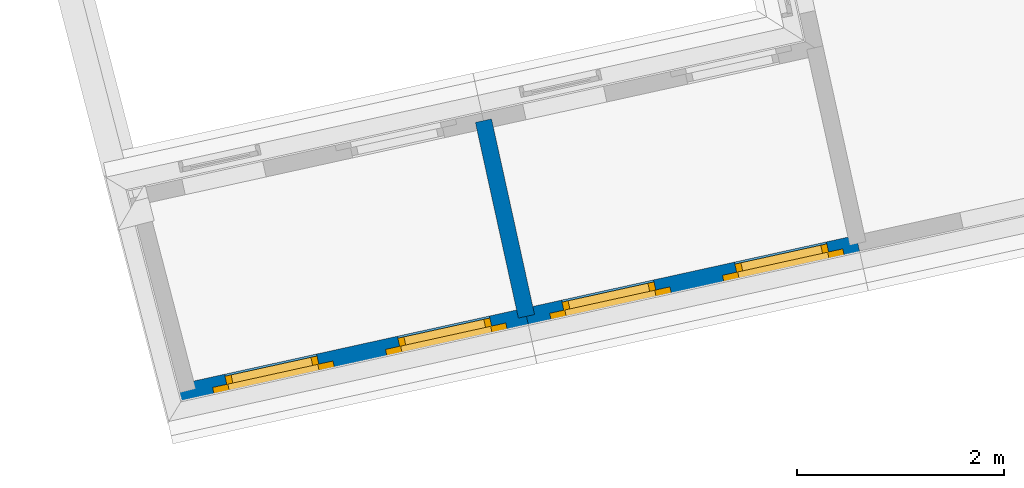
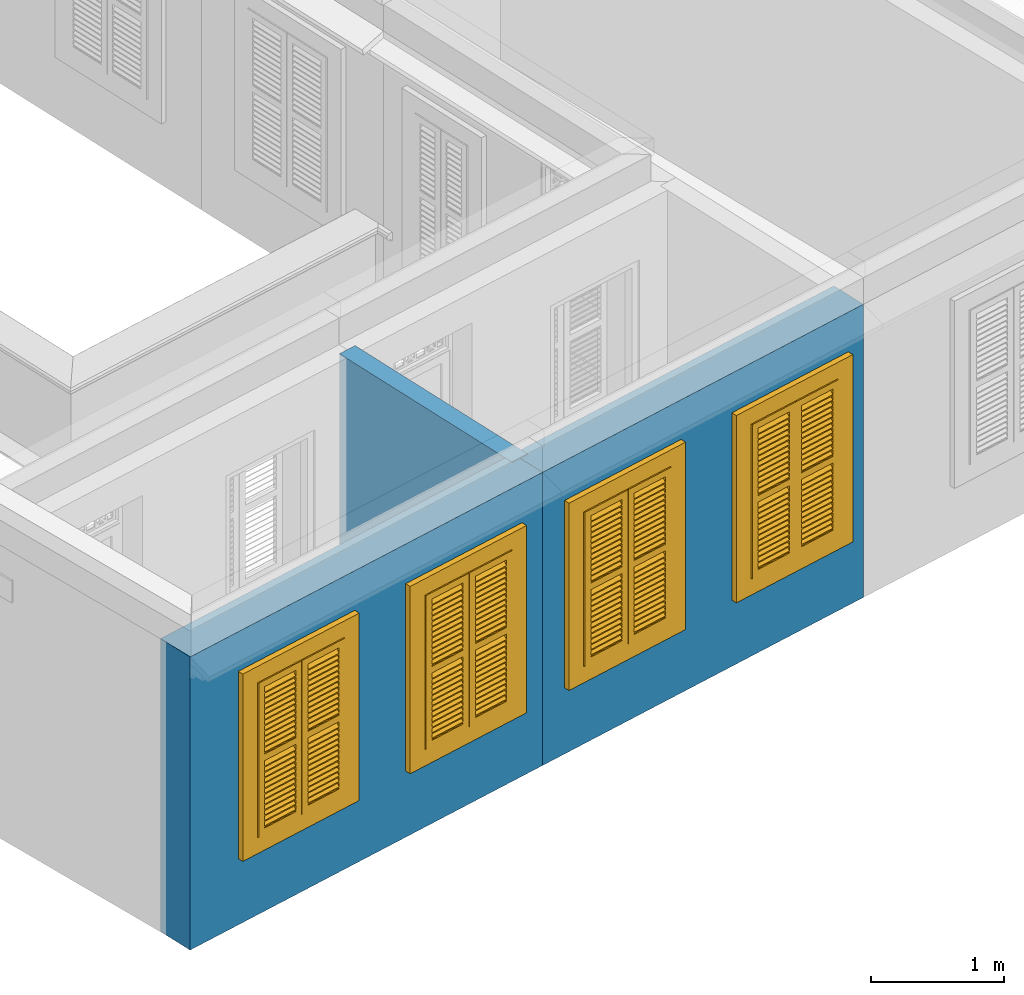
# One storey, part 2 of 17: 4 windows, 3 walls, 4 openings.
"""IFC4 building model written with IfcOpenShell, lengths in metres."""

import ifcopenshell
import ifcopenshell.guid

model = None  # the IFC model being written
_history = None  # IfcOwnerHistory: only IFC2X3 demands one
_inside = {}  # id of a spatial element -> (the spatial element, [elements in it])
_under = {}  # id of a project, library or spatial element -> (it, [spatial elements below it])
_declared = {}  # id of a project -> (the project, [libraries it declares])
_typed = {}  # id of a type object -> (the type object, [elements of that type])
_made_of = {}  # id of a material, layer set ... -> (it, [elements and type objects made of it])


def new_model(schema):
    """Start an empty IFC model of exactly this schema.

    Asked for "IFC4X3", IfcOpenShell would pick the latest addendum, in which some entities
    have other attributes; the version numbers below select the first issue.
    IFC2X3 requires an IfcOwnerHistory on every rooted entity: one is made here for all.
    """
    global model, _history
    if schema == "IFC4X3":
        model = ifcopenshell.file(schema_version=(4, 3, 0, 0))
    else:
        model = ifcopenshell.file(schema=schema)
    _inside.clear()
    _under.clear()
    _declared.clear()
    _typed.clear()
    _made_of.clear()
    _history = None
    if model.schema == "IFC2X3":
        org = make("IfcOrganization", Name="unknown")
        user = make(
            "IfcPersonAndOrganization",
            ThePerson=make("IfcPerson", FamilyName="unknown"),
            TheOrganization=org,
        )
        app = make(
            "IfcApplication",
            ApplicationDeveloper=org,
            Version="unknown",
            ApplicationFullName="unknown",
            ApplicationIdentifier="unknown",
        )
        _history = make(
            "IfcOwnerHistory",
            OwningUser=user,
            OwningApplication=app,
            ChangeAction="ADDED",
            CreationDate=0,
        )
    return model


def make(cls, **values):
    """One entity of the class cls with the attributes given. An attribute that is None is left unset."""
    return model.create_entity(
        cls, **{name: value for name, value in values.items() if value is not None}
    )


def rooted(cls, **values):
    """An entity with a GlobalId (a new one), such as an element, a storey or a relation."""
    return make(cls, GlobalId=ifcopenshell.guid.new(), OwnerHistory=_history, **values)


def si_unit(unit_type, name, prefix=None):
    """IfcSIUnit, for example si_unit("LENGTHUNIT", "METRE", prefix="MILLI")."""
    return make("IfcSIUnit", UnitType=unit_type, Prefix=prefix, Name=name)


def assignment(units):
    """IfcUnitAssignment: the units of a project."""
    return None if units is None else make("IfcUnitAssignment", Units=units)


def point(xyz):
    """IfcCartesianPoint."""
    return None if xyz is None else make("IfcCartesianPoint", Coordinates=xyz)


def direction(xyz):
    """IfcDirection."""
    return None if xyz is None else make("IfcDirection", DirectionRatios=xyz)


def frame(location, z_axis=None, x_axis=None):
    """IfcAxis2Placement3D, a coordinate frame: its origin and axes. An axis left out is left unset."""
    return make(
        "IfcAxis2Placement3D",
        Location=point(location),
        Axis=direction(z_axis),
        RefDirection=direction(x_axis),
    )


def origin():
    """The frame at (0, 0, 0) with its axes left unset."""
    return frame((0.0, 0.0, 0.0))


def origin_with_axes():
    """The frame at (0, 0, 0) with the z axis (0, 0, 1) and the x axis (1, 0, 0) written out."""
    return frame((0.0, 0.0, 0.0), z_axis=(0.0, 0.0, 1.0), x_axis=(1.0, 0.0, 0.0))


def place(relative_to, where):
    """IfcLocalPlacement: puts the frame where relative to a parent placement (None: the world)."""
    return make(
        "IfcLocalPlacement", PlacementRelTo=relative_to, RelativePlacement=where
    )


def context(
    kind, dimensions, precision=None, world=None, true_north=None, identifier=None
):
    """IfcGeometricRepresentationContext, for example the 3D "Model" context."""
    return make(
        "IfcGeometricRepresentationContext",
        ContextIdentifier=identifier,
        ContextType=kind,
        CoordinateSpaceDimension=dimensions,
        Precision=precision,
        WorldCoordinateSystem=world,
        TrueNorth=true_north,
    )


def subcontext(parent, identifier, kind, view, scale=None):
    """IfcGeometricRepresentationSubContext, for example "Body" below "Model"."""
    return make(
        "IfcGeometricRepresentationSubContext",
        ContextIdentifier=identifier,
        ContextType=kind,
        ParentContext=parent,
        TargetScale=scale,
        TargetView=view,
    )


def project(units=None, contexts=None):
    """IfcProject with its units and contexts."""
    return rooted(
        "IfcProject",
        Name="project",
        RepresentationContexts=contexts,
        UnitsInContext=assignment(units),
    )


def spatial(cls, under=None, at=None, **own):
    """A site, building, storey or space (cls), placed at a placement, below another one or the project."""
    s = rooted(cls, ObjectPlacement=at, **own)
    if under is not None:
        _under.setdefault(under.id(), (under, []))[1].append(s)
    return s


def polyline(points):
    """IfcPolyline through the points."""
    return make("IfcPolyline", Points=[point(p) for p in points])


def outline(outer, holes=None, kind="AREA"):
    """IfcArbitraryClosedProfileDef: a profile drawn as a closed curve; with holes, ...WithVoids."""
    if holes is None:
        return make("IfcArbitraryClosedProfileDef", ProfileType=kind, OuterCurve=outer)
    return make(
        "IfcArbitraryProfileDefWithVoids",
        ProfileType=kind,
        OuterCurve=outer,
        InnerCurves=holes,
    )


def extrude(swept, where, along, depth):
    """IfcExtrudedAreaSolid: the profile swept, set in the frame where, extruded along a direction by depth."""
    return make(
        "IfcExtrudedAreaSolid",
        SweptArea=swept,
        Position=where,
        ExtrudedDirection=direction(along),
        Depth=depth,
    )


def faces_of(points, faces, orient=None, outer=None):
    """IfcFace entities. A face is a list of loops; a loop is a list of indices into points, from 0.

    orient and outer hold one flag for each loop. By default every Orientation is true, the
    first loop of a face is its IfcFaceOuterBound and the others are IfcFaceBound.
    """
    made = []
    for i, loops in enumerate(faces):
        bounds = []
        for j, loop in enumerate(loops):
            is_outer = j == 0 if outer is None else outer[i][j]
            bounds.append(
                make(
                    "IfcFaceOuterBound" if is_outer else "IfcFaceBound",
                    Bound=make("IfcPolyLoop", Polygon=[points[k] for k in loop]),
                    Orientation=True if orient is None else orient[i][j],
                )
            )
        made.append(make("IfcFace", Bounds=bounds))
    return made


def faceted_brep(points, faces, orient=None, outer=None, voids=None):
    """IfcFacetedBrep: a solid bounded by flat faces; with voids (closed shells), ...WithVoids."""
    shared = [point(p) for p in points]
    hull = make("IfcClosedShell", CfsFaces=faces_of(shared, faces, orient, outer))
    if voids is None:
        return make("IfcFacetedBrep", Outer=hull)
    return make(
        "IfcFacetedBrepWithVoids",
        Outer=hull,
        Voids=[
            make(cls, CfsFaces=faces_of(shared, fs, o, b)) for cls, fs, o, b in voids
        ],
    )


def shape(context_of_items, identifier, shape_type, items):
    """IfcShapeRepresentation: the items that make up one representation, for example the "Body"."""
    return make(
        "IfcShapeRepresentation",
        ContextOfItems=context_of_items,
        RepresentationIdentifier=identifier,
        RepresentationType=shape_type,
        Items=items,
    )


def source(mapping_origin, context_of_items, identifier, shape_type, items):
    """IfcRepresentationMap: a shape defined once, which mapped items show again and again."""
    return make(
        "IfcRepresentationMap",
        MappingOrigin=mapping_origin,
        MappedRepresentation=shape(context_of_items, identifier, shape_type, items),
    )


def transform(
    local_origin,
    x_axis=None,
    y_axis=None,
    z_axis=None,
    scale=None,
    scale2=None,
    scale3=None,
    uniform=True,
):
    """IfcCartesianTransformationOperator3D, or its non-uniform kind. x_axis, y_axis, z_axis: its Axis1, 2, 3."""
    if uniform:
        return make(
            "IfcCartesianTransformationOperator3D",
            Axis1=direction(x_axis),
            Axis2=direction(y_axis),
            LocalOrigin=point(local_origin),
            Scale=scale,
            Axis3=direction(z_axis),
        )
    return make(
        "IfcCartesianTransformationOperator3DnonUniform",
        Axis1=direction(x_axis),
        Axis2=direction(y_axis),
        LocalOrigin=point(local_origin),
        Scale=scale,
        Axis3=direction(z_axis),
        Scale2=scale2,
        Scale3=scale3,
    )


def mapped(mapping_source, mapping_target):
    """IfcMappedItem: shows the shape of a source again, moved by a transform."""
    return make(
        "IfcMappedItem", MappingSource=mapping_source, MappingTarget=mapping_target
    )


def material(Name=None, Category=None):
    """IfcMaterial."""
    return make("IfcMaterial", Name=Name, Category=Category)


def layer(
    of_material, thickness, ventilated=None, Name=None, Category=None, Priority=None
):
    """IfcMaterialLayer: one layer of a wall or slab, of a material (None: an air gap)."""
    return make(
        "IfcMaterialLayer",
        Material=of_material,
        LayerThickness=thickness,
        IsVentilated=ventilated,
        Name=Name,
        Category=Category,
        Priority=Priority,
    )


def layer_set(layers, Name=None):
    """IfcMaterialLayerSet."""
    return make("IfcMaterialLayerSet", MaterialLayers=layers, LayerSetName=Name)


def layer_usage(for_layer_set, set_direction, sense, offset, extent=None):
    """IfcMaterialLayerSetUsage: how a layer set lies in its element."""
    return make(
        "IfcMaterialLayerSetUsage",
        ForLayerSet=for_layer_set,
        LayerSetDirection=set_direction,
        DirectionSense=sense,
        OffsetFromReferenceLine=offset,
        ReferenceExtent=extent,
    )


def made_of(thing, what):
    """Note that an element or type object is made of a material, layer set ...; save() writes the relation."""
    if what is not None:
        _made_of.setdefault(what.id(), (what, []))[1].append(thing)
    return thing


def type_object(cls, material=None, **own):
    """A type object (cls), such as IfcWallType, which elements share."""
    return made_of(rooted(cls, **own), material)


def type_shapes(of_type, sources):
    """Give a type object the sources (RepresentationMaps) that its elements show as mapped items."""
    of_type.RepresentationMaps = sources


def element(
    cls,
    number,
    at=None,
    inside=None,
    cuts=None,
    type_object=None,
    material=None,
    context=None,
    identifier="Body",
    shape_type=None,
    held_by="IfcProductDefinitionShape",
    body=None,
    shapes=None,
    **own,
):
    """One element of the class cls, such as IfcWall. Its Tag is "e" and its number.

    at: its placement. inside: the storey or other place that contains it. cuts: it is an
    opening in that element (IfcRelVoidsElement). A single representation is given by context,
    identifier, shape_type and body (its items); several are given by shapes. held_by: the class
    of the entity that holds the representations. save() writes the other relations.
    """
    e = rooted(cls, Tag="e%d" % number, ObjectPlacement=at, **own)
    if body is not None:
        shapes = [shape(context, identifier, shape_type, body)]
    if shapes is not None:
        e.Representation = make(held_by, Representations=shapes)
    if inside is not None:
        _inside.setdefault(inside.id(), (inside, []))[1].append(e)
    if cuts is not None:
        rooted(
            "IfcRelVoidsElement", RelatingBuildingElement=cuts, RelatedOpeningElement=e
        )
    if type_object is not None:
        _typed.setdefault(type_object.id(), (type_object, []))[1].append(e)
    return made_of(e, material)


def fill(opening, filler):
    """IfcRelFillsElement: the door or window that sits in an opening."""
    return rooted(
        "IfcRelFillsElement",
        RelatingOpeningElement=opening,
        RelatedBuildingElement=filler,
    )


def aggregate(whole, parts):
    """IfcRelAggregates: a whole, such as a stair, and the parts it consists of."""
    return rooted("IfcRelAggregates", RelatingObject=whole, RelatedObjects=parts)


def save(model, path):
    """Write the relations noted so far, then the file.

    IfcRelAggregates (storeys below a building ...), IfcRelContainedInSpatialStructure (elements
    in a storey), IfcRelDefinesByType, IfcRelAssociatesMaterial and IfcRelDeclares: one each for
    every whole, place, type object, material and project.
    """
    for whole, parts in _under.values():
        aggregate(whole, parts)
    for where, things in _inside.values():
        rooted(
            "IfcRelContainedInSpatialStructure",
            RelatedElements=things,
            RelatingStructure=where,
        )
    for kind, things in _typed.values():
        rooted("IfcRelDefinesByType", RelatedObjects=things, RelatingType=kind)
    for what, things in _made_of.values():
        rooted("IfcRelAssociatesMaterial", RelatedObjects=things, RelatingMaterial=what)
    for by, libraries in _declared.values():
        rooted("IfcRelDeclares", RelatingContext=by, RelatedDefinitions=libraries)
    model.write(path)


model = new_model("IFC4")

# Units and contexts
model_context = context("Model", 3, world=origin_with_axes())
body_context = subcontext(model_context, "Body", "Model", "MODEL_VIEW")
ifc_project = project(units=[si_unit("PLANEANGLEUNIT", "RADIAN"), si_unit("MASSUNIT", "GRAM", prefix="KILO"), si_unit("FORCEUNIT", "NEWTON", prefix="KILO"), si_unit("LENGTHUNIT", "METRE"), si_unit("AREAUNIT", "SQUARE_METRE"), si_unit("VOLUMEUNIT", "CUBIC_METRE")], contexts=[model_context, model_context])

# Site, building, storey
site_placement = place(None, origin_with_axes())
site = spatial("IfcSite", under=ifc_project, at=site_placement, Name="Site plot-2", CompositionType="ELEMENT")
building_placement = place(None, origin_with_axes())
building = spatial("IfcBuilding", under=site, at=building_placement, Name="Building plot-2", CompositionType="ELEMENT")
storey_placement = place(None, frame((0.0, 0.0, 2.85), z_axis=(0.0, 0.0, 1.0), x_axis=(1.0, 0.0, 0.0)))
storey = spatial("IfcBuildingStorey", under=building, at=storey_placement, Name="plot-2 1", CompositionType="ELEMENT", Elevation=2.85)

# Wall, openings, windows
ifc_material_1 = material(Name="Masonry")
ifc_layer_1 = layer(ifc_material_1, 0.33, ventilated=False)
ifc_layer_set_1 = layer_set([ifc_layer_1], Name="exterior_0.08_0.25")
ifc_layer_usage_1 = layer_usage(ifc_layer_set_1, "AXIS2", "POSITIVE", -0.25)
wall_type_1 = type_object("IfcWallType", Name="exterior_0.08_0.25", PredefinedType="SOLIDWALL", material=ifc_layer_set_1)
wall_1_placement = place(storey_placement, frame((11.33951719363, 1.30021004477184, 0.0), z_axis=(0.0, 0.0, 1.0), x_axis=(0.976656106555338, 0.214808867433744, 0.0)))
wall_1 = element("IfcWall", 1, at=wall_1_placement, inside=storey, type_object=wall_type_1, material=ifc_layer_usage_1, Name="exterior", context=body_context, shape_type="SweptSolid", body=[
    extrude(outline(polyline([(-0.25, 0.08), (-0.25, -0.25), (3.35202978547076, -0.25), (3.35202978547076, 0.0800000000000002), (-0.25, 0.08)])), origin_with_axes(), (0.0, 0.0, 1.0), 2.7),
])
opening_1_placement = place(wall_1_placement, frame((0.38300744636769, 0.0, 0.75)))
opening_1 = element("IfcOpeningElement", 2, at=opening_1_placement, cuts=wall_1, Name="My Opening", ObjectType="Opening", context=body_context, shape_type="SweptSolid", body=[
    extrude(outline(polyline([(0.0, -0.27), (0.910000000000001, -0.27), (0.910000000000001, 1.1), (-1.66533453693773e-16, 1.1), (0.0, -0.27)])), origin_with_axes(), (0.0, 0.0, 1.0), 1.445),
])
opening_2_placement = place(wall_1_placement, frame((2.09300744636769, 0.0, 0.75)))
opening_2 = element("IfcOpeningElement", 3, at=opening_2_placement, cuts=wall_1, Name="My Opening", ObjectType="Opening", context=body_context, shape_type="SweptSolid", body=[
    extrude(outline(polyline([(0.0, -0.27), (0.909999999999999, -0.27), (0.909999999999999, 1.1), (0.0, 1.1), (0.0, -0.27)])), origin_with_axes(), (0.0, 0.0, 1.0), 1.445),
])
window_type = type_object("IfcWindowType", Name="shuttered_shorter", PartitioningType="DOUBLE_PANEL_HORIZONTAL", PredefinedType="NOTDEFINED")
shared_shape = source(origin(), body_context, "Body", "Brep", [
    faceted_brep([(0.393, 0.0, 0.622), (0.074, 0.0, 0.622), (0.074, 0.0, 0.632), (0.393, 0.0, 0.632), (0.074, -0.04, 0.592), (0.393, -0.04, 0.592), (0.393, -0.04, 0.582), (0.074, -0.04, 0.582), (0.517, 0.0, 0.682), (0.836, 0.0, 0.682), (0.836, 0.0, 0.672), (0.517, 0.0, 0.672), (0.517, -0.04, 0.642), (0.836, -0.04, 0.642), (0.836, -0.04, 0.632), (0.517, -0.04, 0.632), (0.517, 0.0, 0.632), (0.836, 0.0, 0.632), (0.836, 0.0, 0.622), (0.517, 0.0, 0.622), (0.517, -0.04, 0.592), (0.836, -0.04, 0.592), (0.836, -0.04, 0.582), (0.517, -0.04, 0.582), (0.517, 0.0, 0.232), (0.836, 0.0, 0.232), (0.836, 0.0, 0.222), (0.517, 0.0, 0.222), (0.517, -0.04, 0.192), (0.836, -0.04, 0.192), (0.836, -0.04, 0.182), (0.517, -0.04, 0.182), (0.517, 0.0, 0.532), (0.836, 0.0, 0.532), (0.836, 0.0, 0.522), (0.517, 0.0, 0.522), (0.517, -0.04, 0.492), (0.836, -0.04, 0.492), (0.836, -0.04, 0.482), (0.517, -0.04, 0.482), (0.517, 0.0, 0.482), (0.836, 0.0, 0.482), (0.836, 0.0, 0.472), (0.517, 0.0, 0.472), (0.517, -0.04, 0.442), (0.836, -0.04, 0.442), (0.836, -0.04, 0.432), (0.517, -0.04, 0.432), (0.517, 0.0, 0.582), (0.836, 0.0, 0.582), (0.836, 0.0, 0.572), (0.517, 0.0, 0.572), (0.517, -0.04, 0.542), (0.836, -0.04, 0.542), (0.836, -0.04, 0.532), (0.517, -0.04, 0.532), (0.517, 0.0, 0.182), (0.836, 0.0, 0.182), (0.836, 0.0, 0.172), (0.517, 0.0, 0.172), (0.517, -0.04, 0.142), (0.836, -0.04, 0.142), (0.836, -0.04, 0.132), (0.517, -0.04, 0.132), (0.517, 0.0, 0.382), (0.836, 0.0, 0.382), (0.836, 0.0, 0.372), (0.517, 0.0, 0.372), (0.517, -0.04, 0.342), (0.836, -0.04, 0.342), (0.836, -0.04, 0.332), (0.517, -0.04, 0.332), (0.517, 0.0, 0.432), (0.836, 0.0, 0.432), (0.836, 0.0, 0.422), (0.517, 0.0, 0.422), (0.517, -0.04, 0.392), (0.836, -0.04, 0.392), (0.836, -0.04, 0.382), (0.517, -0.04, 0.382), (0.517, 0.0, 0.132), (0.836, 0.0, 0.132), (0.836, 0.0, 0.122), (0.517, 0.0, 0.122), (0.517, -0.04, 0.092), (0.836, -0.04, 0.092), (0.836, -0.04, 0.082), (0.517, -0.04, 0.082), (0.517, 0.0, 0.282), (0.836, 0.0, 0.282), (0.836, 0.0, 0.272), (0.517, 0.0, 0.272), (0.517, -0.04, 0.242), (0.836, -0.04, 0.242), (0.836, -0.04, 0.232), (0.517, -0.04, 0.232), (0.517, 0.0, 0.332), (0.836, 0.0, 0.332), (0.836, 0.0, 0.322), (0.517, 0.0, 0.322), (0.517, -0.04, 0.292), (0.836, -0.04, 0.292), (0.836, -0.04, 0.282), (0.517, -0.04, 0.282), (0.517, 0.0, 1.362667), (0.836, 0.0, 1.362667), (0.836, 0.0, 1.352667), (0.517, 0.0, 1.352667), (0.517, -0.04, 1.322667), (0.836, -0.04, 1.322667), (0.836, -0.04, 1.312667), (0.517, -0.04, 1.312667), (0.517, 0.0, 1.312667), (0.836, 0.0, 1.312667), (0.836, 0.0, 1.302667), (0.517, 0.0, 1.302667), (0.517, -0.04, 1.272667), (0.836, -0.04, 1.272667), (0.836, -0.04, 1.262667), (0.517, -0.04, 1.262667), (0.517, 0.0, 0.912667), (0.836, 0.0, 0.912667), (0.836, 0.0, 0.902667), (0.517, 0.0, 0.902667), (0.517, -0.04, 0.872667), (0.836, -0.04, 0.872667), (0.836, -0.04, 0.862667), (0.517, -0.04, 0.862667), (0.517, 0.0, 1.212667), (0.836, 0.0, 1.212667), (0.836, 0.0, 1.202667), (0.517, 0.0, 1.202667), (0.517, -0.04, 1.172667), (0.836, -0.04, 1.172667), (0.836, -0.04, 1.162667), (0.517, -0.04, 1.162667), (0.517, 0.0, 1.162667), (0.836, 0.0, 1.162667), (0.836, 0.0, 1.152667), (0.517, 0.0, 1.152667), (0.517, -0.04, 1.122667), (0.836, -0.04, 1.122667), (0.836, -0.04, 1.112667), (0.517, -0.04, 1.112667), (0.517, 0.0, 1.262667), (0.836, 0.0, 1.262667), (0.836, 0.0, 1.252667), (0.517, 0.0, 1.252667), (0.517, -0.04, 1.222667), (0.836, -0.04, 1.222667), (0.836, -0.04, 1.212667), (0.517, -0.04, 1.212667), (0.517, 0.0, 0.862667), (0.836, 0.0, 0.862667), (0.836, 0.0, 0.852667), (0.517, 0.0, 0.852667), (0.517, -0.04, 0.822667), (0.836, -0.04, 0.822667), (0.836, -0.04, 0.812667), (0.517, -0.04, 0.812667), (0.517, 0.0, 1.062667), (0.836, 0.0, 1.062667), (0.836, 0.0, 1.052667), (0.517, 0.0, 1.052667), (0.517, -0.04, 1.022667), (0.836, -0.04, 1.022667), (0.836, -0.04, 1.012667), (0.517, -0.04, 1.012667), (0.517, 0.0, 1.112667), (0.836, 0.0, 1.112667), (0.836, 0.0, 1.102667), (0.517, 0.0, 1.102667), (0.517, -0.04, 1.072667), (0.836, -0.04, 1.072667), (0.836, -0.04, 1.062667), (0.517, -0.04, 1.062667), (0.517, 0.0, 0.812667), (0.836, 0.0, 0.812667), (0.836, 0.0, 0.802667), (0.517, 0.0, 0.802667), (0.517, -0.04, 0.772667), (0.836, -0.04, 0.772667), (0.836, -0.04, 0.762667), (0.517, -0.04, 0.762667), (0.517, 0.0, 0.962667), (0.836, 0.0, 0.962667), (0.836, 0.0, 0.952667), (0.517, 0.0, 0.952667), (0.517, -0.04, 0.922667), (0.836, -0.04, 0.922667), (0.836, -0.04, 0.912667), (0.517, -0.04, 0.912667), (0.517, 0.0, 1.012667), (0.836, 0.0, 1.012667), (0.836, 0.0, 1.002667), (0.517, 0.0, 1.002667), (0.517, -0.04, 0.972667), (0.836, -0.04, 0.972667), (0.836, -0.04, 0.962667), (0.517, -0.04, 0.962667), (0.074, 0.0, 0.682), (0.393, 0.0, 0.682), (0.393, 0.0, 0.672), (0.074, 0.0, 0.672), (0.074, -0.04, 0.642), (0.393, -0.04, 0.642), (0.393, -0.04, 0.632), (0.074, -0.04, 0.632), (0.074, 0.0, 0.232), (0.393, 0.0, 0.232), (0.393, 0.0, 0.222), (0.074, 0.0, 0.222), (0.074, -0.04, 0.192), (0.393, -0.04, 0.192), (0.393, -0.04, 0.182), (0.074, -0.04, 0.182), (0.074, 0.0, 0.532), (0.393, 0.0, 0.532), (0.393, 0.0, 0.522), (0.074, 0.0, 0.522), (0.074, -0.04, 0.492), (0.393, -0.04, 0.492), (0.393, -0.04, 0.482), (0.074, -0.04, 0.482), (0.074, 0.0, 0.482), (0.393, 0.0, 0.482), (0.393, 0.0, 0.472), (0.074, 0.0, 0.472), (0.074, -0.04, 0.442), (0.393, -0.04, 0.442), (0.393, -0.04, 0.432), (0.074, -0.04, 0.432), (0.074, 0.0, 0.582), (0.393, 0.0, 0.582), (0.393, 0.0, 0.572), (0.074, 0.0, 0.572), (0.074, -0.04, 0.542), (0.393, -0.04, 0.542), (0.393, -0.04, 0.532), (0.074, -0.04, 0.532), (0.074, 0.0, 0.182), (0.393, 0.0, 0.182), (0.393, 0.0, 0.172), (0.074, 0.0, 0.172), (0.074, -0.04, 0.142), (0.393, -0.04, 0.142), (0.393, -0.04, 0.132), (0.074, -0.04, 0.132), (0.074, 0.0, 0.382), (0.393, 0.0, 0.382), (0.393, 0.0, 0.372), (0.074, 0.0, 0.372), (0.074, -0.04, 0.342), (0.393, -0.04, 0.342), (0.393, -0.04, 0.332), (0.074, -0.04, 0.332), (0.074, 0.0, 0.432), (0.393, 0.0, 0.432), (0.393, 0.0, 0.422), (0.074, 0.0, 0.422), (0.074, -0.04, 0.392), (0.393, -0.04, 0.392), (0.393, -0.04, 0.382), (0.074, -0.04, 0.382), (0.074, 0.0, 0.132), (0.393, 0.0, 0.132), (0.393, 0.0, 0.122), (0.074, 0.0, 0.122), (0.074, -0.04, 0.092), (0.393, -0.04, 0.092), (0.393, -0.04, 0.082), (0.074, -0.04, 0.082), (0.074, 0.0, 0.282), (0.393, 0.0, 0.282), (0.393, 0.0, 0.272), (0.074, 0.0, 0.272), (0.074, -0.04, 0.242), (0.393, -0.04, 0.242), (0.393, -0.04, 0.232), (0.074, -0.04, 0.232), (0.074, 0.0, 0.332), (0.393, 0.0, 0.332), (0.393, 0.0, 0.322), (0.074, 0.0, 0.322), (0.074, -0.04, 0.292), (0.393, -0.04, 0.292), (0.393, -0.04, 0.282), (0.074, -0.04, 0.282), (0.074, 0.0, 1.362667), (0.393, 0.0, 1.362667), (0.393, 0.0, 1.352667), (0.074, 0.0, 1.352667), (0.074, -0.04, 1.322667), (0.393, -0.04, 1.322667), (0.393, -0.04, 1.312667), (0.074, -0.04, 1.312667), (0.074, 0.0, 1.312667), (0.393, 0.0, 1.312667), (0.393, 0.0, 1.302667), (0.074, 0.0, 1.302667), (0.074, -0.04, 1.272667), (0.393, -0.04, 1.272667), (0.393, -0.04, 1.262667), (0.074, -0.04, 1.262667), (0.074, 0.0, 0.912667), (0.393, 0.0, 0.912667), (0.393, 0.0, 0.902667), (0.074, 0.0, 0.902667), (0.074, -0.04, 0.872667), (0.393, -0.04, 0.872667), (0.393, -0.04, 0.862667), (0.074, -0.04, 0.862667), (0.074, 0.0, 1.212667), (0.393, 0.0, 1.212667), (0.393, 0.0, 1.202667), (0.074, 0.0, 1.202667), (0.074, -0.04, 1.172667), (0.393, -0.04, 1.172667), (0.393, -0.04, 1.162667), (0.074, -0.04, 1.162667), (0.074, 0.0, 1.162667), (0.393, 0.0, 1.162667), (0.393, 0.0, 1.152667), (0.074, 0.0, 1.152667), (0.074, -0.04, 1.122667), (0.393, -0.04, 1.122667), (0.393, -0.04, 1.112667), (0.074, -0.04, 1.112667), (0.074, 0.0, 1.262667), (0.393, 0.0, 1.262667), (0.393, 0.0, 1.252667), (0.074, 0.0, 1.252667), (0.074, -0.04, 1.222667), (0.393, -0.04, 1.222667), (0.393, -0.04, 1.212667), (0.074, -0.04, 1.212667), (0.074, 0.0, 0.862667), (0.393, 0.0, 0.862667), (0.393, 0.0, 0.852667), (0.074, 0.0, 0.852667), (0.074, -0.04, 0.822667), (0.393, -0.04, 0.822667), (0.393, -0.04, 0.812667), (0.074, -0.04, 0.812667), (0.074, 0.0, 1.062667), (0.393, 0.0, 1.062667), (0.393, 0.0, 1.052667), (0.074, 0.0, 1.052667), (0.074, -0.04, 1.022667), (0.393, -0.04, 1.022667), (0.393, -0.04, 1.012667), (0.074, -0.04, 1.012667), (0.074, 0.0, 1.112667), (0.393, 0.0, 1.112667), (0.393, 0.0, 1.102667), (0.074, 0.0, 1.102667), (0.074, -0.04, 1.072667), (0.393, -0.04, 1.072667), (0.393, -0.04, 1.062667), (0.074, -0.04, 1.062667), (0.074, 0.0, 0.812667), (0.393, 0.0, 0.812667), (0.393, 0.0, 0.802667), (0.074, 0.0, 0.802667), (0.074, -0.04, 0.772667), (0.393, -0.04, 0.772667), (0.393, -0.04, 0.762667), (0.074, -0.04, 0.762667), (0.074, 0.0, 0.962667), (0.393, 0.0, 0.962667), (0.393, 0.0, 0.952667), (0.074, 0.0, 0.952667), (0.074, -0.04, 0.922667), (0.393, -0.04, 0.922667), (0.393, -0.04, 0.912667), (0.074, -0.04, 0.912667), (0.074, 0.0, 1.012667), (0.393, 0.0, 1.012667), (0.393, 0.0, 1.002667), (0.074, 0.0, 1.002667), (0.074, -0.04, 0.972667), (0.393, -0.04, 0.972667), (0.393, -0.04, 0.962667), (0.074, -0.04, 0.962667), (0.517, -0.04, 0.072), (0.457, -0.04, 0.012), (0.896, -0.04, 0.012), (0.836, -0.04, 0.072), (0.457, -0.04, 0.692667), (0.517, -0.04, 0.692667), (0.457, 0.0, 0.012), (0.896, 0.0, 0.012), (0.836, -0.04, 0.692667), (0.896, -0.04, 0.692667), (0.836, 0.0, 0.072), (0.517, 0.0, 0.072), (0.457, 0.0, 0.692667), (0.517, 0.0, 0.692667), (0.517, -0.04, 0.752666), (0.457, -0.04, 0.752666), (0.896, 0.0, 0.692667), (0.836, 0.0, 0.692667), (0.836, -0.04, 0.752666), (0.896, -0.04, 0.752666), (0.457, 0.0, 0.752666), (0.457, -0.04, 1.433333), (0.517, -0.04, 1.373333), (0.896, 0.0, 0.752666), (0.836, -0.04, 1.373333), (0.896, -0.04, 1.433333), (0.457, 0.0, 1.433333), (0.517, 0.0, 0.752666), (0.836, 0.0, 0.752666), (0.517, 0.0, 1.373333), (0.896, 0.0, 1.433333), (0.836, 0.0, 1.373333), (0.074, -0.04, 0.072), (0.014, -0.04, 0.012), (0.453, -0.04, 0.012), (0.393, -0.04, 0.072), (0.014, -0.04, 0.692667), (0.074, -0.04, 0.692667), (0.014, 0.0, 0.012), (0.453, 0.0, 0.012), (0.393, -0.04, 0.692667), (0.453, -0.04, 0.692667), (0.393, 0.0, 0.072), (0.074, 0.0, 0.072), (0.014, 0.0, 0.692667), (0.074, 0.0, 0.692667), (0.074, -0.04, 0.752666), (0.014, -0.04, 0.752666), (0.453, 0.0, 0.692667), (0.393, 0.0, 0.692667), (0.393, -0.04, 0.752666), (0.453, -0.04, 0.752666), (0.014, 0.0, 0.752666), (0.014, -0.04, 1.433333), (0.074, -0.04, 1.373333), (0.453, 0.0, 0.752666), (0.393, -0.04, 1.373333), (0.453, -0.04, 1.433333), (0.014, 0.0, 1.433333), (0.074, 0.0, 0.752666), (0.393, 0.0, 0.752666), (0.074, 0.0, 1.373333), (0.453, 0.0, 1.433333), (0.393, 0.0, 1.373333), (0.0, 0.33, 1.445), (0.91, 0.33, 1.445), (0.85, 0.33, 1.385), (0.06, 0.33, 1.385), (0.91, 0.25, 1.445), (0.0, 0.25, 1.445), (0.91, 0.25, 1.445), (0.85, 0.33, 0.06), (0.91, 0.33, 0.0), (0.85, 0.25, 1.385), (0.06, 0.25, 1.385), (0.0, 0.33, 0.0), (0.06, 0.33, 0.06), (0.0, 0.25, 0.0), (0.91, 0.25, 0.0), (0.85, 0.25, 0.06), (0.06, 0.25, 0.06), (1.05, 0.25, 1.585), (-0.14, 0.25, 1.585), (-0.14, -0.03, 1.585), (1.05, -0.03, 1.585), (0.9, -0.03, 1.435), (0.01, -0.03, 1.435), (0.01, 0.25, 1.435), (0.9, 0.25, 1.435), (0.9, 0.25, 0.01), (0.9, -0.03, 0.01), (1.05, -0.03, -0.14), (1.05, 0.25, -0.14), (0.01, -0.03, 0.01), (0.01, 0.25, 0.01), (-0.14, -0.03, -0.14), (-0.14, 0.25, -0.14)], [[[0, 1, 2, 3]], [[4, 5, 3, 2]], [[5, 6, 0, 3]], [[1, 0, 6, 7]], [[2, 1, 7, 4]], [[5, 4, 7, 6]], [[8, 9, 10, 11]], [[12, 13, 9, 8]], [[13, 14, 10, 9]], [[14, 15, 11, 10]], [[15, 12, 8, 11]], [[13, 12, 15, 14]], [[16, 17, 18, 19]], [[20, 21, 17, 16]], [[21, 22, 18, 17]], [[22, 23, 19, 18]], [[23, 20, 16, 19]], [[21, 20, 23, 22]], [[24, 25, 26, 27]], [[28, 29, 25, 24]], [[29, 30, 26, 25]], [[30, 31, 27, 26]], [[31, 28, 24, 27]], [[29, 28, 31, 30]], [[32, 33, 34, 35]], [[36, 37, 33, 32]], [[37, 38, 34, 33]], [[38, 39, 35, 34]], [[39, 36, 32, 35]], [[37, 36, 39, 38]], [[40, 41, 42, 43]], [[44, 45, 41, 40]], [[45, 46, 42, 41]], [[46, 47, 43, 42]], [[47, 44, 40, 43]], [[45, 44, 47, 46]], [[48, 49, 50, 51]], [[52, 53, 49, 48]], [[53, 54, 50, 49]], [[54, 55, 51, 50]], [[55, 52, 48, 51]], [[53, 52, 55, 54]], [[56, 57, 58, 59]], [[60, 61, 57, 56]], [[61, 62, 58, 57]], [[62, 63, 59, 58]], [[63, 60, 56, 59]], [[61, 60, 63, 62]], [[64, 65, 66, 67]], [[68, 69, 65, 64]], [[69, 70, 66, 65]], [[70, 71, 67, 66]], [[71, 68, 64, 67]], [[69, 68, 71, 70]], [[72, 73, 74, 75]], [[76, 77, 73, 72]], [[77, 78, 74, 73]], [[78, 79, 75, 74]], [[79, 76, 72, 75]], [[77, 76, 79, 78]], [[80, 81, 82, 83]], [[84, 85, 81, 80]], [[85, 86, 82, 81]], [[86, 87, 83, 82]], [[87, 84, 80, 83]], [[85, 84, 87, 86]], [[88, 89, 90, 91]], [[92, 93, 89, 88]], [[93, 94, 90, 89]], [[94, 95, 91, 90]], [[95, 92, 88, 91]], [[93, 92, 95, 94]], [[96, 97, 98, 99]], [[100, 101, 97, 96]], [[101, 102, 98, 97]], [[102, 103, 99, 98]], [[103, 100, 96, 99]], [[101, 100, 103, 102]], [[104, 105, 106, 107]], [[108, 109, 105, 104]], [[109, 110, 106, 105]], [[110, 111, 107, 106]], [[111, 108, 104, 107]], [[109, 108, 111, 110]], [[112, 113, 114, 115]], [[116, 117, 113, 112]], [[117, 118, 114, 113]], [[118, 119, 115, 114]], [[119, 116, 112, 115]], [[117, 116, 119, 118]], [[120, 121, 122, 123]], [[124, 125, 121, 120]], [[125, 126, 122, 121]], [[126, 127, 123, 122]], [[127, 124, 120, 123]], [[125, 124, 127, 126]], [[128, 129, 130, 131]], [[132, 133, 129, 128]], [[133, 134, 130, 129]], [[134, 135, 131, 130]], [[135, 132, 128, 131]], [[133, 132, 135, 134]], [[136, 137, 138, 139]], [[140, 141, 137, 136]], [[141, 142, 138, 137]], [[142, 143, 139, 138]], [[139, 143, 140, 136]], [[141, 140, 143, 142]], [[144, 145, 146, 147]], [[148, 149, 145, 144]], [[149, 150, 146, 145]], [[150, 151, 147, 146]], [[151, 148, 144, 147]], [[149, 148, 151, 150]], [[152, 153, 154, 155]], [[156, 157, 153, 152]], [[157, 158, 154, 153]], [[158, 159, 155, 154]], [[159, 156, 152, 155]], [[157, 156, 159, 158]], [[160, 161, 162, 163]], [[164, 165, 161, 160]], [[165, 166, 162, 161]], [[166, 167, 163, 162]], [[167, 164, 160, 163]], [[165, 164, 167, 166]], [[168, 169, 170, 171]], [[172, 173, 169, 168]], [[173, 174, 170, 169]], [[174, 175, 171, 170]], [[175, 172, 168, 171]], [[173, 172, 175, 174]], [[176, 177, 178, 179]], [[180, 181, 177, 176]], [[181, 182, 178, 177]], [[182, 183, 179, 178]], [[183, 180, 176, 179]], [[181, 180, 183, 182]], [[184, 185, 186, 187]], [[188, 189, 185, 184]], [[189, 190, 186, 185]], [[190, 191, 187, 186]], [[191, 188, 184, 187]], [[189, 188, 191, 190]], [[192, 193, 194, 195]], [[196, 197, 193, 192]], [[197, 198, 194, 193]], [[198, 199, 195, 194]], [[199, 196, 192, 195]], [[197, 196, 199, 198]], [[200, 201, 202, 203]], [[204, 205, 201, 200]], [[205, 206, 202, 201]], [[206, 207, 203, 202]], [[207, 204, 200, 203]], [[205, 204, 207, 206]], [[208, 209, 210, 211]], [[212, 213, 209, 208]], [[213, 214, 210, 209]], [[214, 215, 211, 210]], [[215, 212, 208, 211]], [[213, 212, 215, 214]], [[216, 217, 218, 219]], [[220, 221, 217, 216]], [[221, 222, 218, 217]], [[222, 223, 219, 218]], [[223, 220, 216, 219]], [[221, 220, 223, 222]], [[224, 225, 226, 227]], [[228, 229, 225, 224]], [[229, 230, 226, 225]], [[230, 231, 227, 226]], [[231, 228, 224, 227]], [[229, 228, 231, 230]], [[232, 233, 234, 235]], [[236, 237, 233, 232]], [[237, 238, 234, 233]], [[238, 239, 235, 234]], [[239, 236, 232, 235]], [[237, 236, 239, 238]], [[240, 241, 242, 243]], [[244, 245, 241, 240]], [[245, 246, 242, 241]], [[246, 247, 243, 242]], [[247, 244, 240, 243]], [[245, 244, 247, 246]], [[248, 249, 250, 251]], [[252, 253, 249, 248]], [[253, 254, 250, 249]], [[254, 255, 251, 250]], [[255, 252, 248, 251]], [[253, 252, 255, 254]], [[256, 257, 258, 259]], [[260, 261, 257, 256]], [[261, 262, 258, 257]], [[262, 263, 259, 258]], [[263, 260, 256, 259]], [[261, 260, 263, 262]], [[264, 265, 266, 267]], [[268, 269, 265, 264]], [[269, 270, 266, 265]], [[270, 271, 267, 266]], [[271, 268, 264, 267]], [[269, 268, 271, 270]], [[272, 273, 274, 275]], [[276, 277, 273, 272]], [[277, 278, 274, 273]], [[278, 279, 275, 274]], [[279, 276, 272, 275]], [[277, 276, 279, 278]], [[280, 281, 282, 283]], [[284, 285, 281, 280]], [[285, 286, 282, 281]], [[286, 287, 283, 282]], [[287, 284, 280, 283]], [[285, 284, 287, 286]], [[288, 289, 290, 291]], [[292, 293, 289, 288]], [[293, 294, 290, 289]], [[294, 295, 291, 290]], [[295, 292, 288, 291]], [[293, 292, 295, 294]], [[296, 297, 298, 299]], [[300, 301, 297, 296]], [[301, 302, 298, 297]], [[302, 303, 299, 298]], [[303, 300, 296, 299]], [[301, 300, 303, 302]], [[304, 305, 306, 307]], [[308, 309, 305, 304]], [[309, 310, 306, 305]], [[310, 311, 307, 306]], [[311, 308, 304, 307]], [[309, 308, 311, 310]], [[312, 313, 314, 315]], [[316, 317, 313, 312]], [[317, 318, 314, 313]], [[318, 319, 315, 314]], [[319, 316, 312, 315]], [[317, 316, 319, 318]], [[320, 321, 322, 323]], [[324, 325, 321, 320]], [[325, 326, 322, 321]], [[326, 327, 323, 322]], [[327, 324, 320, 323]], [[325, 324, 327, 326]], [[328, 329, 330, 331]], [[332, 333, 329, 328]], [[333, 334, 330, 329]], [[334, 335, 331, 330]], [[335, 332, 328, 331]], [[333, 332, 335, 334]], [[336, 337, 338, 339]], [[340, 341, 337, 336]], [[341, 342, 338, 337]], [[342, 343, 339, 338]], [[343, 340, 336, 339]], [[341, 340, 343, 342]], [[344, 345, 346, 347]], [[348, 349, 345, 344]], [[349, 350, 346, 345]], [[350, 351, 347, 346]], [[351, 348, 344, 347]], [[349, 348, 351, 350]], [[352, 353, 354, 355]], [[356, 357, 353, 352]], [[357, 358, 354, 353]], [[358, 359, 355, 354]], [[359, 356, 352, 355]], [[357, 356, 359, 358]], [[360, 361, 362, 363]], [[364, 365, 361, 360]], [[365, 366, 362, 361]], [[366, 367, 363, 362]], [[367, 364, 360, 363]], [[365, 364, 367, 366]], [[368, 369, 370, 371]], [[372, 373, 369, 368]], [[373, 374, 370, 369]], [[374, 375, 371, 370]], [[375, 372, 368, 371]], [[373, 372, 375, 374]], [[376, 377, 378, 379]], [[380, 381, 377, 376]], [[381, 382, 378, 377]], [[382, 383, 379, 378]], [[383, 380, 376, 379]], [[381, 380, 383, 382]], [[384, 385, 386, 387]], [[388, 385, 384, 389]], [[390, 391, 386, 385]], [[392, 387, 386, 393]], [[384, 387, 394, 395]], [[390, 385, 388, 396]], [[389, 384, 395, 397]], [[389, 398, 399, 388]], [[390, 395, 394, 391]], [[400, 393, 386, 391]], [[387, 392, 401, 394]], [[402, 392, 393, 403]], [[396, 388, 399, 404]], [[390, 396, 397, 395]], [[392, 389, 397, 401]], [[398, 389, 392, 402]], [[405, 399, 398, 406]], [[394, 401, 400, 391]], [[407, 403, 393, 400]], [[408, 402, 403, 409]], [[404, 399, 405, 410]], [[411, 397, 396, 404]], [[397, 411, 412, 401]], [[398, 402, 412, 411]], [[406, 398, 411, 413]], [[405, 406, 408, 409]], [[401, 412, 407, 400]], [[414, 409, 403, 407]], [[402, 408, 415, 412]], [[405, 409, 414, 410]], [[404, 410, 413, 411]], [[408, 406, 413, 415]], [[412, 415, 414, 407]], [[413, 410, 414, 415]], [[416, 417, 418, 419]], [[420, 417, 416, 421]], [[422, 423, 418, 417]], [[424, 419, 418, 425]], [[416, 419, 426, 427]], [[422, 417, 420, 428]], [[421, 416, 427, 429]], [[421, 430, 431, 420]], [[422, 427, 426, 423]], [[432, 425, 418, 423]], [[419, 424, 433, 426]], [[434, 424, 425, 435]], [[428, 420, 431, 436]], [[422, 428, 429, 427]], [[424, 421, 429, 433]], [[430, 421, 424, 434]], [[437, 431, 430, 438]], [[426, 433, 432, 423]], [[439, 435, 425, 432]], [[440, 434, 435, 441]], [[436, 431, 437, 442]], [[443, 429, 428, 436]], [[429, 443, 444, 433]], [[430, 434, 444, 443]], [[438, 430, 443, 445]], [[437, 438, 440, 441]], [[433, 444, 439, 432]], [[446, 441, 435, 439]], [[434, 440, 447, 444]], [[437, 441, 446, 442]], [[436, 442, 445, 443]], [[440, 438, 445, 447]], [[444, 447, 446, 439]], [[445, 442, 446, 447]], [[448, 449, 450, 451]], [[452, 449, 448]], [[448, 453, 454]], [[448, 454, 452]], [[455, 450, 449, 456]], [[451, 450, 457, 458]], [[459, 448, 451, 460]], [[448, 459, 461, 453]], [[454, 453, 458, 457]], [[462, 452, 454]], [[454, 457, 463]], [[454, 463, 462]], [[456, 449, 452, 462]], [[450, 455, 463, 457]], [[456, 459, 460, 455]], [[460, 451, 458, 464]], [[459, 456, 462, 461]], [[464, 458, 453, 461]], [[461, 462, 463, 464]], [[455, 460, 464, 463]], [[465, 466, 467, 468]], [[469, 470, 471, 472]], [[473, 474, 469, 472]], [[465, 468, 475, 476]], [[470, 477, 478, 471]], [[474, 473, 478, 477]], [[474, 477, 479, 475]], [[470, 467, 479, 477]], [[470, 469, 468, 467]], [[474, 475, 468, 469]], [[471, 478, 480, 466]], [[473, 472, 465, 476]], [[473, 476, 480, 478]], [[466, 465, 472, 471]], [[480, 476, 475, 479]], [[480, 479, 467, 466]]]),
])
type_shapes(window_type, [shared_shape])
window_1_placement = place(storey_placement, frame((11.7715821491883, 1.11878629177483, 0.75), z_axis=(0.0, 0.0, 1.0), x_axis=(0.888757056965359, 0.195476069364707, 0.0)))
window_1 = element("IfcWindow", 4, at=window_1_placement, inside=storey, type_object=window_type, Name="bedroom outside window", OverallHeight=1.445, OverallWidth=0.91, context=body_context, shape_type="MappedRepresentation", body=[
    mapped(shared_shape, transform((0.0, 0.0, 0.0), scale=1.0)),
])
fill(opening_1, window_1)
window_2_placement = place(storey_placement, frame((13.4416640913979, 1.48610945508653, 0.75), z_axis=(0.0, 0.0, 1.0), x_axis=(0.888757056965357, 0.195476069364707, 0.0)))
window_2 = element("IfcWindow", 5, at=window_2_placement, inside=storey, type_object=window_type, Name="bedroom outside window", OverallHeight=1.445, OverallWidth=0.91, context=body_context, shape_type="MappedRepresentation", body=[
    mapped(shared_shape, transform((0.0, 0.0, 0.0), scale=1.0)),
])
fill(opening_2, window_2)

wall_2_placement = place(storey_placement, frame((14.6132975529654, 2.02025576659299, 0.0), z_axis=(0.0, 0.0, 1.0), x_axis=(0.97665610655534, 0.214808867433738, 0.0)))
wall_2 = element("IfcWall", 6, at=wall_2_placement, inside=storey, type_object=wall_type_1, material=ifc_layer_usage_1, Name="exterior", context=body_context, shape_type="SweptSolid", body=[
    extrude(outline(polyline([(-6.34589874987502e-16, 0.0800000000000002), (1.95819837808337e-15, -0.25), (3.27829974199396, -0.249999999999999), (3.27829974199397, 0.0799999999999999), (-6.34589874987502e-16, 0.0800000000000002)])), origin_with_axes(), (0.0, 0.0, 1.0), 2.7),
])
opening_3_placement = place(wall_2_placement, frame((0.364574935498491, 0.0, 0.75)))
opening_3 = element("IfcOpeningElement", 7, at=opening_3_placement, cuts=wall_2, Name="My Opening", ObjectType="Opening", context=body_context, shape_type="SweptSolid", body=[
    extrude(outline(polyline([(0.0, -0.27), (0.91, -0.27), (0.909999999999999, 1.1), (-8.88178419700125e-16, 1.1), (0.0, -0.27)])), origin_with_axes(), (0.0, 0.0, 1.0), 1.445),
])
opening_4_placement = place(wall_2_placement, frame((2.07457493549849, 0.0, 0.75)))
opening_4 = element("IfcOpeningElement", 8, at=opening_4_placement, cuts=wall_2, Name="My Opening", ObjectType="Opening", context=body_context, shape_type="SweptSolid", body=[
    extrude(outline(polyline([(0.0, -0.270000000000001), (0.909999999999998, -0.27), (0.909999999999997, 1.1), (-1.33226762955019e-15, 1.1), (0.0, -0.270000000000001)])), origin_with_axes(), (0.0, 0.0, 1.0), 1.445),
])
window_3_placement = place(storey_placement, frame((15.0273602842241, 1.83487254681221, 0.75), z_axis=(0.0, 0.0, 1.0), x_axis=(0.888757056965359, 0.195476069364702, 0.0)))
window_3 = element("IfcWindow", 9, at=window_3_placement, inside=storey, type_object=window_type, Name="toilet outside window", OverallHeight=1.445, OverallWidth=0.91, context=body_context, shape_type="MappedRepresentation", body=[
    mapped(shared_shape, transform((0.0, 0.0, 0.0), scale=1.0)),
])
fill(opening_3, window_3)
window_4_placement = place(storey_placement, frame((16.6974422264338, 2.2021957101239, 0.75), z_axis=(0.0, 0.0, 1.0), x_axis=(0.888757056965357, 0.195476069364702, 0.0)))
window_4 = element("IfcWindow", 10, at=window_4_placement, inside=storey, type_object=window_type, Name="toilet outside window", OverallHeight=1.445, OverallWidth=0.91, context=body_context, shape_type="MappedRepresentation", body=[
    mapped(shared_shape, transform((0.0, 0.0, 0.0), scale=1.0)),
])
fill(opening_4, window_4)

# Wall
ifc_material_2 = material(Name="Masonry")
ifc_layer_2 = layer(ifc_material_2, 0.16, ventilated=False)
ifc_layer_set_2 = layer_set([ifc_layer_2], Name="interior_0.08_0.08")
ifc_layer_usage_2 = layer_usage(ifc_layer_set_2, "AXIS2", "POSITIVE", -0.08)
wall_type_2 = type_object("IfcWallType", Name="interior_0.08_0.08", PredefinedType="SOLIDWALL", material=ifc_layer_set_2)
wall_3_placement = place(storey_placement, frame((14.197533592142, 3.91058001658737, 0.0), z_axis=(0.0, 0.0, 1.0), x_axis=(0.214808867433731, -0.976656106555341, 0.0)))
element("IfcWall", 11, at=wall_3_placement, inside=storey, type_object=wall_type_2, material=ifc_layer_usage_2, Name="interior", context=body_context, shape_type="SweptSolid", body=[
    extrude(outline(polyline([(2.7135211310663e-16, 0.0800000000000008), (-2.98912855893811e-16, -0.0800000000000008), (1.93550650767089, -0.0800000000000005), (1.93550650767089, 0.080000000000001), (2.7135211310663e-16, 0.0800000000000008)])), origin_with_axes(), (0.0, 0.0, 1.0), 2.7),
])

save(model, "model.ifc")
